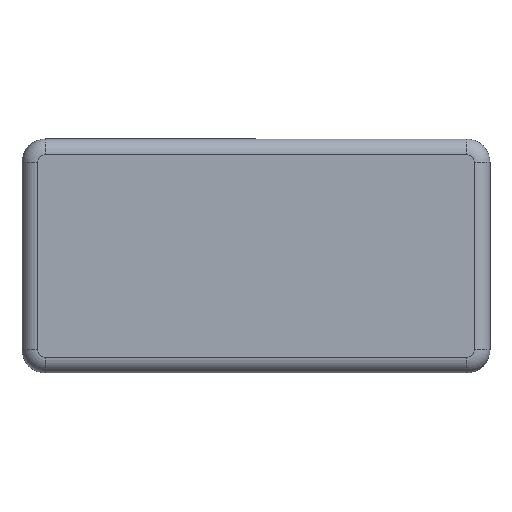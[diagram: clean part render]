
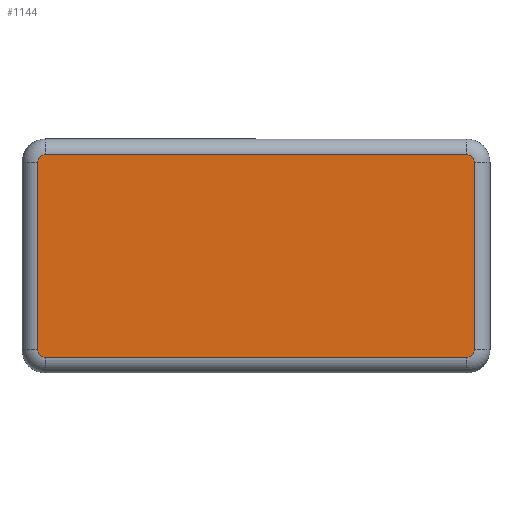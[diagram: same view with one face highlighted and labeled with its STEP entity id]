
A CAD part, front view. The second image highlights one B-rep face of the part: STEP entity #1144.
In plain terms, the highlighted planar face has unit normal (0, -1, 0).
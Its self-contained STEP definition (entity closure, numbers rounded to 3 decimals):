
#2 = DIRECTION ( 'NONE',  ( 0., 0., -1. ) ) ;
#21 = VECTOR ( 'NONE', #577, 1000. ) ;
#83 = DIRECTION ( 'NONE',  ( 0., 0., 1. ) ) ;
#90 = VERTEX_POINT ( 'NONE', #1327 ) ;
#94 = CIRCLE ( 'NONE', #1525, 1. ) ;
#112 = PLANE ( 'NONE',  #281 ) ;
#133 = EDGE_CURVE ( 'NONE', #1254, #90, #1292, .T. ) ;
#195 = LINE ( 'NONE', #1513, #1295 ) ;
#196 = CARTESIAN_POINT ( 'NONE',  ( 28., -4., -12. ) ) ;
#226 = ORIENTED_EDGE ( 'NONE', *, *, #133, .T. ) ;
#248 = DIRECTION ( 'NONE',  ( 0., 1., 0. ) ) ;
#265 = EDGE_CURVE ( 'NONE', #1630, #1435, #195, .T. ) ;
#281 = AXIS2_PLACEMENT_3D ( 'NONE', #1075, #248, #1172 ) ;
#293 = CARTESIAN_POINT ( 'NONE',  ( 28., -4., 12. ) ) ;
#310 = CARTESIAN_POINT ( 'NONE',  ( -27., -4., 13. ) ) ;
#313 = EDGE_CURVE ( 'NONE', #90, #779, #94, .T. ) ;
#406 = VERTEX_POINT ( 'NONE', #710 ) ;
#413 = VERTEX_POINT ( 'NONE', #576 ) ;
#420 = CARTESIAN_POINT ( 'NONE',  ( 27., -4., 12. ) ) ;
#460 = ORIENTED_EDGE ( 'NONE', *, *, #597, .T. ) ;
#463 = DIRECTION ( 'NONE',  ( 0., 0., 1. ) ) ;
#528 = ORIENTED_EDGE ( 'NONE', *, *, #856, .T. ) ;
#559 = DIRECTION ( 'NONE',  ( 0., 0., 1. ) ) ;
#576 = CARTESIAN_POINT ( 'NONE',  ( -27., -4., -13. ) ) ;
#577 = DIRECTION ( 'NONE',  ( -1., 0., 0. ) ) ;
#586 = ORIENTED_EDGE ( 'NONE', *, *, #265, .T. ) ;
#588 = CARTESIAN_POINT ( 'NONE',  ( -27., -4., -12. ) ) ;
#597 = EDGE_CURVE ( 'NONE', #406, #413, #712, .T. ) ;
#633 = EDGE_CURVE ( 'NONE', #1435, #1254, #1060, .T. ) ;
#651 = AXIS2_PLACEMENT_3D ( 'NONE', #671, #1551, #801 ) ;
#671 = CARTESIAN_POINT ( 'NONE',  ( 27., -4., -12. ) ) ;
#682 = ORIENTED_EDGE ( 'NONE', *, *, #313, .T. ) ;
#689 = CARTESIAN_POINT ( 'NONE',  ( 27., -4., 13. ) ) ;
#698 = AXIS2_PLACEMENT_3D ( 'NONE', #420, #1330, #559 ) ;
#710 = CARTESIAN_POINT ( 'NONE',  ( -28., -4., -12. ) ) ;
#712 = CIRCLE ( 'NONE', #1665, 1. ) ;
#718 = DIRECTION ( 'NONE',  ( 0., 0., 1. ) ) ;
#724 = VERTEX_POINT ( 'NONE', #1126 ) ;
#736 = ORIENTED_EDGE ( 'NONE', *, *, #1159, .T. ) ;
#779 = VERTEX_POINT ( 'NONE', #1170 ) ;
#801 = DIRECTION ( 'NONE',  ( 0., 0., 1. ) ) ;
#856 = EDGE_CURVE ( 'NONE', #413, #724, #1509, .T. ) ;
#872 = DIRECTION ( 'NONE',  ( 0., -1., 0. ) ) ;
#938 = CARTESIAN_POINT ( 'NONE',  ( -28., -4., -12. ) ) ;
#942 = CARTESIAN_POINT ( 'NONE',  ( 27., -4., -13. ) ) ;
#1060 = CIRCLE ( 'NONE', #698, 1. ) ;
#1075 = CARTESIAN_POINT ( 'NONE',  ( 0., -4., 0. ) ) ;
#1126 = CARTESIAN_POINT ( 'NONE',  ( 27., -4., -13. ) ) ;
#1144 = ADVANCED_FACE ( 'NONE', ( #1511 ), #112, .F. ) ;
#1159 = EDGE_CURVE ( 'NONE', #779, #406, #1476, .T. ) ;
#1170 = CARTESIAN_POINT ( 'NONE',  ( -28., -4., 12. ) ) ;
#1172 = DIRECTION ( 'NONE',  ( 0., 0., 1. ) ) ;
#1181 = DIRECTION ( 'NONE',  ( 1., 0., 0. ) ) ;
#1196 = EDGE_CURVE ( 'NONE', #724, #1630, #1452, .T. ) ;
#1254 = VERTEX_POINT ( 'NONE', #689 ) ;
#1292 = LINE ( 'NONE', #310, #21 ) ;
#1295 = VECTOR ( 'NONE', #463, 1000. ) ;
#1327 = CARTESIAN_POINT ( 'NONE',  ( -27., -4., 13. ) ) ;
#1330 = DIRECTION ( 'NONE',  ( 0., -1., 0. ) ) ;
#1374 = ORIENTED_EDGE ( 'NONE', *, *, #1196, .T. ) ;
#1435 = VERTEX_POINT ( 'NONE', #293 ) ;
#1452 = CIRCLE ( 'NONE', #651, 1. ) ;
#1474 = DIRECTION ( 'NONE',  ( 0., -1., 0. ) ) ;
#1476 = LINE ( 'NONE', #938, #1512 ) ;
#1507 = EDGE_LOOP ( 'NONE', ( #736, #460, #528, #1374, #586, #1559, #226, #682 ) ) ;
#1509 = LINE ( 'NONE', #942, #1523 ) ;
#1511 = FACE_OUTER_BOUND ( 'NONE', #1507, .T. ) ;
#1512 = VECTOR ( 'NONE', #2, 1000. ) ;
#1513 = CARTESIAN_POINT ( 'NONE',  ( 28., -4., 12. ) ) ;
#1523 = VECTOR ( 'NONE', #1181, 1000. ) ;
#1525 = AXIS2_PLACEMENT_3D ( 'NONE', #1624, #872, #83 ) ;
#1551 = DIRECTION ( 'NONE',  ( 0., -1., 0. ) ) ;
#1559 = ORIENTED_EDGE ( 'NONE', *, *, #633, .T. ) ;
#1624 = CARTESIAN_POINT ( 'NONE',  ( -27., -4., 12. ) ) ;
#1630 = VERTEX_POINT ( 'NONE', #196 ) ;
#1665 = AXIS2_PLACEMENT_3D ( 'NONE', #588, #1474, #718 ) ;
